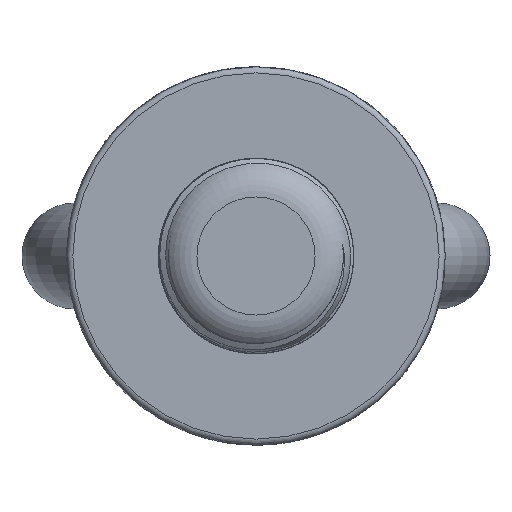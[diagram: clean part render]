
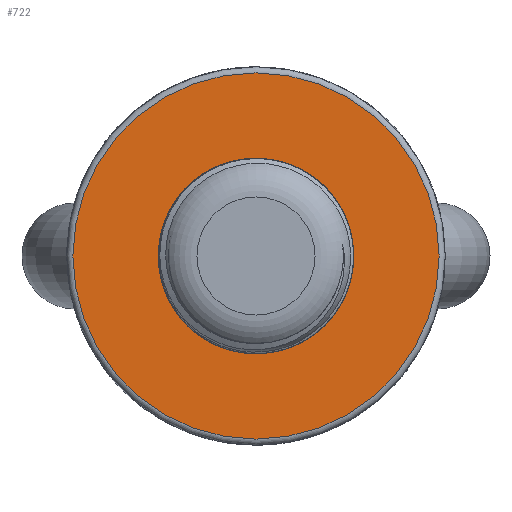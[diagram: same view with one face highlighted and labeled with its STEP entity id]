
A CAD part, front view. The second image highlights one B-rep face of the part: STEP entity #722.
In plain terms, the highlighted planar face has unit normal (0, -1, 0).
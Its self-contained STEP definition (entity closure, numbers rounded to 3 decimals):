
#565=CIRCLE('',#5160,45.);
#566=CIRCLE('',#5162,23.75);
#722=ADVANCED_FACE('',(#1510,#1511),#1019,.F.);
#1019=PLANE('',#5163);
#1510=FACE_BOUND('',#1580,.T.);
#1511=FACE_BOUND('',#1581,.T.);
#1580=EDGE_LOOP('',(#2079));
#1581=EDGE_LOOP('',(#2080));
#2079=ORIENTED_EDGE('',*,*,#4003,.F.);
#2080=ORIENTED_EDGE('',*,*,#4002,.T.);
#3519=VERTEX_POINT('',#7762);
#3520=VERTEX_POINT('',#7765);
#4002=EDGE_CURVE('',#3519,#3519,#565,.T.);
#4003=EDGE_CURVE('',#3520,#3520,#566,.T.);
#5160=AXIS2_PLACEMENT_3D('',#7761,#5636,#5637);
#5162=AXIS2_PLACEMENT_3D('',#7764,#5640,#5641);
#5163=AXIS2_PLACEMENT_3D('',#7766,#5642,#5643);
#5636=DIRECTION('',(0.,-1.,0.));
#5637=DIRECTION('',(1.,0.,0.));
#5640=DIRECTION('',(0.,-1.,0.));
#5641=DIRECTION('',(1.,0.,0.));
#5642=DIRECTION('',(0.,1.,0.));
#5643=DIRECTION('',(-1.,0.,0.));
#7761=CARTESIAN_POINT('',(0.,-11.1,0.));
#7762=CARTESIAN_POINT('',(45.,-11.1,0.));
#7764=CARTESIAN_POINT('',(0.,-11.1,0.));
#7765=CARTESIAN_POINT('',(23.75,-11.1,0.));
#7766=CARTESIAN_POINT('',(45.,-11.1,0.));
